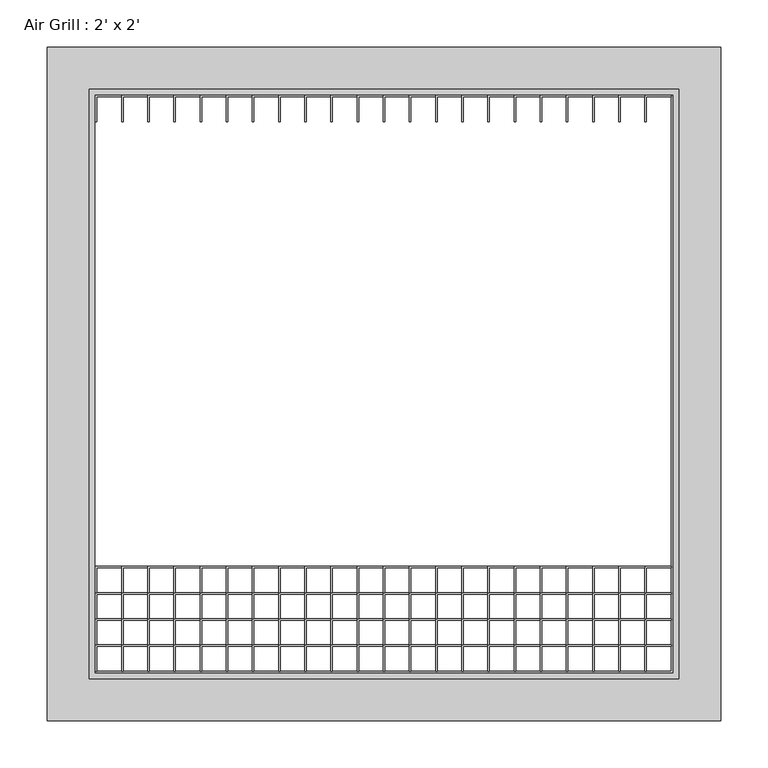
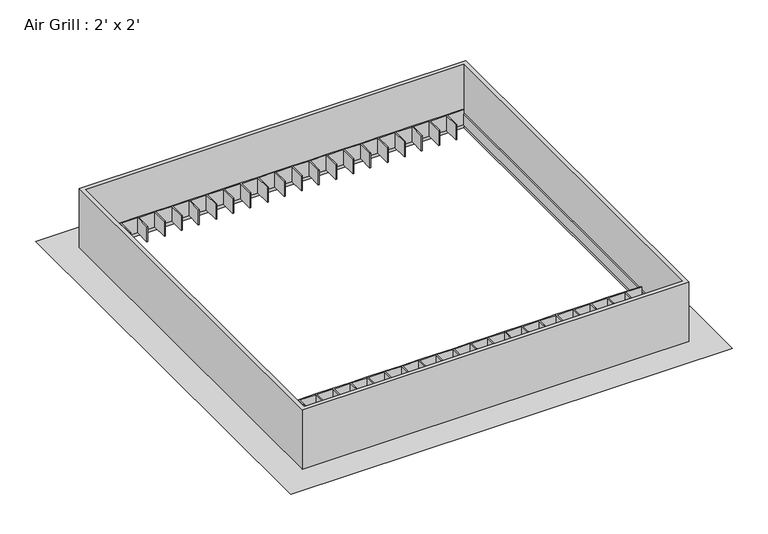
"""IFC4 building model written with IfcOpenShell, lengths in millimetres: proxy geometry, Air Grill : 2' x 2'."""

from ifc_helpers import new_model, si_unit, frame, origin, place, context, project, spatial, polyline, outline, extrude, faceted_brep, source, transform, mapped, element, save


def air_grill_2_x_2_c6a46b44(model_context):
    return source(origin(), model_context, "Body", "SolidModel", [
        extrude(outline(polyline([(247.9386364, -192.6647727), (275.5755682, -192.6647727), (275.5755682, -194.2522727), (249.5261364, -194.2522727), (249.5261364, -220.3017045), (247.9386364, -220.3017045), (247.9386364, -192.6647727)])), frame((0.0, 0.0, 2438.4), z_axis=(0.0, 0.0, 1.0), x_axis=(1.0, 0.0, 0.0)), (0.0, 0.0, 1.0), 25.4),
        extrude(outline(polyline([(220.3017045, -192.6647727), (247.9386364, -192.6647727), (247.9386364, -194.2522727), (221.8892045, -194.2522727), (221.8892045, -220.3017045), (220.3017045, -220.3017045), (220.3017045, -192.6647727)])), frame((0.0, 0.0, 2438.4), z_axis=(0.0, 0.0, 1.0), x_axis=(1.0, 0.0, 0.0)), (0.0, 0.0, 1.0), 25.4),
        extrude(outline(polyline([(192.6647727, -192.6647727), (220.3017045, -192.6647727), (220.3017045, -194.2522727), (194.2522727, -194.2522727), (194.2522727, -220.3017045), (192.6647727, -220.3017045), (192.6647727, -192.6647727)])), frame((0.0, 0.0, 2438.4), z_axis=(0.0, 0.0, 1.0), x_axis=(1.0, 0.0, 0.0)), (0.0, 0.0, 1.0), 25.4),
        extrude(outline(polyline([(165.0278409, -192.6647727), (192.6647727, -192.6647727), (192.6647727, -194.2522727), (166.6153409, -194.2522727), (166.6153409, -220.3017045), (165.0278409, -220.3017045), (165.0278409, -192.6647727)])), frame((0.0, 0.0, 2438.4), z_axis=(0.0, 0.0, 1.0), x_axis=(1.0, 0.0, 0.0)), (0.0, 0.0, 1.0), 25.4),
        extrude(outline(polyline([(137.3909091, -192.6647727), (165.0278409, -192.6647727), (165.0278409, -194.2522727), (138.9784091, -194.2522727), (138.9784091, -220.3017045), (137.3909091, -220.3017045), (137.3909091, -192.6647727)])), frame((0.0, 0.0, 2438.4), z_axis=(0.0, 0.0, 1.0), x_axis=(1.0, 0.0, 0.0)), (0.0, 0.0, 1.0), 25.4),
        extrude(outline(polyline([(109.7539773, -192.6647727), (137.3909091, -192.6647727), (137.3909091, -194.2522727), (111.3414773, -194.2522727), (111.3414773, -220.3017045), (109.7539773, -220.3017045), (109.7539773, -192.6647727)])), frame((0.0, 0.0, 2438.4), z_axis=(0.0, 0.0, 1.0), x_axis=(1.0, 0.0, 0.0)), (0.0, 0.0, 1.0), 25.4),
        extrude(outline(polyline([(82.1170455, -192.6647727), (109.7539773, -192.6647727), (109.7539773, -194.2522727), (83.7045455, -194.2522727), (83.7045455, -220.3017045), (82.1170455, -220.3017045), (82.1170455, -192.6647727)])), frame((0.0, 0.0, 2438.4), z_axis=(0.0, 0.0, 1.0), x_axis=(1.0, 0.0, 0.0)), (0.0, 0.0, 1.0), 25.4),
        extrude(outline(polyline([(54.4801136, -192.6647727), (82.1170455, -192.6647727), (82.1170455, -194.2522727), (56.0676136, -194.2522727), (56.0676136, -220.3017045), (54.4801136, -220.3017045), (54.4801136, -192.6647727)])), frame((0.0, 0.0, 2438.4), z_axis=(0.0, 0.0, 1.0), x_axis=(1.0, 0.0, 0.0)), (0.0, 0.0, 1.0), 25.4),
        extrude(outline(polyline([(26.8431818, -192.6647727), (54.4801136, -192.6647727), (54.4801136, -194.2522727), (28.4306818, -194.2522727), (28.4306818, -220.3017045), (26.8431818, -220.3017045), (26.8431818, -192.6647727)])), frame((0.0, 0.0, 2438.4), z_axis=(0.0, 0.0, 1.0), x_axis=(1.0, 0.0, 0.0)), (0.0, 0.0, 1.0), 25.4),
        extrude(outline(polyline([(-0.79375, -192.6647727), (26.8431818, -192.6647727), (26.8431818, -194.2522727), (0.79375, -194.2522727), (0.79375, -220.3017045), (-0.79375, -220.3017045), (-0.79375, -192.6647727)])), frame((0.0, 0.0, 2438.4), z_axis=(0.0, 0.0, 1.0), x_axis=(1.0, 0.0, 0.0)), (0.0, 0.0, 1.0), 25.4),
        extrude(outline(polyline([(-28.4306818, -192.6647727), (-0.79375, -192.6647727), (-0.79375, -194.2522727), (-26.8431818, -194.2522727), (-26.8431818, -220.3017045), (-28.4306818, -220.3017045), (-28.4306818, -192.6647727)])), frame((0.0, 0.0, 2438.4), z_axis=(0.0, 0.0, 1.0), x_axis=(1.0, 0.0, 0.0)), (0.0, 0.0, 1.0), 25.4),
        extrude(outline(polyline([(-56.0676136, -192.6647727), (-28.4306818, -192.6647727), (-28.4306818, -194.2522727), (-54.4801136, -194.2522727), (-54.4801136, -220.3017045), (-56.0676136, -220.3017045), (-56.0676136, -192.6647727)])), frame((0.0, 0.0, 2438.4), z_axis=(0.0, 0.0, 1.0), x_axis=(1.0, 0.0, 0.0)), (0.0, 0.0, 1.0), 25.4),
        extrude(outline(polyline([(-83.7045455, -192.6647727), (-56.0676136, -192.6647727), (-56.0676136, -194.2522727), (-82.1170455, -194.2522727), (-82.1170455, -220.3017045), (-83.7045455, -220.3017045), (-83.7045455, -192.6647727)])), frame((0.0, 0.0, 2438.4), z_axis=(0.0, 0.0, 1.0), x_axis=(1.0, 0.0, 0.0)), (0.0, 0.0, 1.0), 25.4),
        extrude(outline(polyline([(-111.3414773, -192.6647727), (-83.7045455, -192.6647727), (-83.7045455, -194.2522727), (-109.7539773, -194.2522727), (-109.7539773, -220.3017045), (-111.3414773, -220.3017045), (-111.3414773, -192.6647727)])), frame((0.0, 0.0, 2438.4), z_axis=(0.0, 0.0, 1.0), x_axis=(1.0, 0.0, 0.0)), (0.0, 0.0, 1.0), 25.4),
        extrude(outline(polyline([(-138.9784091, -192.6647727), (-111.3414773, -192.6647727), (-111.3414773, -194.2522727), (-137.3909091, -194.2522727), (-137.3909091, -220.3017045), (-138.9784091, -220.3017045), (-138.9784091, -192.6647727)])), frame((0.0, 0.0, 2438.4), z_axis=(0.0, 0.0, 1.0), x_axis=(1.0, 0.0, 0.0)), (0.0, 0.0, 1.0), 25.4),
        extrude(outline(polyline([(-166.6153409, -192.6647727), (-138.9784091, -192.6647727), (-138.9784091, -194.2522727), (-165.0278409, -194.2522727), (-165.0278409, -220.3017045), (-166.6153409, -220.3017045), (-166.6153409, -192.6647727)])), frame((0.0, 0.0, 2438.4), z_axis=(0.0, 0.0, 1.0), x_axis=(1.0, 0.0, 0.0)), (0.0, 0.0, 1.0), 25.4),
        extrude(outline(polyline([(-194.2522727, -192.6647727), (-166.6153409, -192.6647727), (-166.6153409, -194.2522727), (-192.6647727, -194.2522727), (-192.6647727, -220.3017045), (-194.2522727, -220.3017045), (-194.2522727, -192.6647727)])), frame((0.0, 0.0, 2438.4), z_axis=(0.0, 0.0, 1.0), x_axis=(1.0, 0.0, 0.0)), (0.0, 0.0, 1.0), 25.4),
        extrude(outline(polyline([(-221.8892045, -192.6647727), (-194.2522727, -192.6647727), (-194.2522727, -194.2522727), (-220.3017045, -194.2522727), (-220.3017045, -220.3017045), (-221.8892045, -220.3017045), (-221.8892045, -192.6647727)])), frame((0.0, 0.0, 2438.4), z_axis=(0.0, 0.0, 1.0), x_axis=(1.0, 0.0, 0.0)), (0.0, 0.0, 1.0), 25.4),
        extrude(outline(polyline([(-249.5261364, -192.6647727), (-221.8892045, -192.6647727), (-221.8892045, -194.2522727), (-247.9386364, -194.2522727), (-247.9386364, -220.3017045), (-249.5261364, -220.3017045), (-249.5261364, -192.6647727)])), frame((0.0, 0.0, 2438.4), z_axis=(0.0, 0.0, 1.0), x_axis=(1.0, 0.0, 0.0)), (0.0, 0.0, 1.0), 25.4),
        extrude(outline(polyline([(-277.1630682, -192.6647727), (-249.5261364, -192.6647727), (-249.5261364, -194.2522727), (-275.5755682, -194.2522727), (-275.5755682, -220.3017045), (-277.1630682, -220.3017045), (-277.1630682, -192.6647727)])), frame((0.0, 0.0, 2438.4), z_axis=(0.0, 0.0, 1.0), x_axis=(1.0, 0.0, 0.0)), (0.0, 0.0, 1.0), 25.4),
        extrude(outline(polyline([(275.5755682, -192.6647727), (303.2125, -192.6647727), (303.2125, -194.2522727), (277.1630682, -194.2522727), (277.1630682, -220.3017045), (275.5755682, -220.3017045), (275.5755682, -192.6647727)])), frame((0.0, 0.0, 2438.4), z_axis=(0.0, 0.0, 1.0), x_axis=(1.0, 0.0, 0.0)), (0.0, 0.0, 1.0), 25.4),
        extrude(outline(polyline([(-304.8, -192.6647727), (-277.1630682, -192.6647727), (-277.1630682, -194.2522727), (-303.2125, -194.2522727), (-303.2125, -220.3017045), (-304.8, -220.3017045), (-304.8, -192.6647727)])), frame((0.0, 0.0, 2438.4), z_axis=(0.0, 0.0, 1.0), x_axis=(1.0, 0.0, 0.0)), (0.0, 0.0, 1.0), 25.4),
        extrude(outline(polyline([(247.9386364, -220.3017045), (275.5755682, -220.3017045), (275.5755682, -221.8892045), (249.5261364, -221.8892045), (249.5261364, -247.9386364), (247.9386364, -247.9386364), (247.9386364, -220.3017045)])), frame((0.0, 0.0, 2438.4), z_axis=(0.0, 0.0, 1.0), x_axis=(1.0, 0.0, 0.0)), (0.0, 0.0, 1.0), 25.4),
        extrude(outline(polyline([(220.3017045, -220.3017045), (247.9386364, -220.3017045), (247.9386364, -221.8892045), (221.8892045, -221.8892045), (221.8892045, -247.9386364), (220.3017045, -247.9386364), (220.3017045, -220.3017045)])), frame((0.0, 0.0, 2438.4), z_axis=(0.0, 0.0, 1.0), x_axis=(1.0, 0.0, 0.0)), (0.0, 0.0, 1.0), 25.4),
        extrude(outline(polyline([(192.6647727, -220.3017045), (220.3017045, -220.3017045), (220.3017045, -221.8892045), (194.2522727, -221.8892045), (194.2522727, -247.9386364), (192.6647727, -247.9386364), (192.6647727, -220.3017045)])), frame((0.0, 0.0, 2438.4), z_axis=(0.0, 0.0, 1.0), x_axis=(1.0, 0.0, 0.0)), (0.0, 0.0, 1.0), 25.4),
        extrude(outline(polyline([(165.0278409, -220.3017045), (192.6647727, -220.3017045), (192.6647727, -221.8892045), (166.6153409, -221.8892045), (166.6153409, -247.9386364), (165.0278409, -247.9386364), (165.0278409, -220.3017045)])), frame((0.0, 0.0, 2438.4), z_axis=(0.0, 0.0, 1.0), x_axis=(1.0, 0.0, 0.0)), (0.0, 0.0, 1.0), 25.4),
        extrude(outline(polyline([(137.3909091, -220.3017045), (165.0278409, -220.3017045), (165.0278409, -221.8892045), (138.9784091, -221.8892045), (138.9784091, -247.9386364), (137.3909091, -247.9386364), (137.3909091, -220.3017045)])), frame((0.0, 0.0, 2438.4), z_axis=(0.0, 0.0, 1.0), x_axis=(1.0, 0.0, 0.0)), (0.0, 0.0, 1.0), 25.4),
        extrude(outline(polyline([(109.7539773, -220.3017045), (137.3909091, -220.3017045), (137.3909091, -221.8892045), (111.3414773, -221.8892045), (111.3414773, -247.9386364), (109.7539773, -247.9386364), (109.7539773, -220.3017045)])), frame((0.0, 0.0, 2438.4), z_axis=(0.0, 0.0, 1.0), x_axis=(1.0, 0.0, 0.0)), (0.0, 0.0, 1.0), 25.4),
        extrude(outline(polyline([(82.1170455, -220.3017045), (109.7539773, -220.3017045), (109.7539773, -221.8892045), (83.7045455, -221.8892045), (83.7045455, -247.9386364), (82.1170455, -247.9386364), (82.1170455, -220.3017045)])), frame((0.0, 0.0, 2438.4), z_axis=(0.0, 0.0, 1.0), x_axis=(1.0, 0.0, 0.0)), (0.0, 0.0, 1.0), 25.4),
        extrude(outline(polyline([(54.4801136, -220.3017045), (82.1170455, -220.3017045), (82.1170455, -221.8892045), (56.0676136, -221.8892045), (56.0676136, -247.9386364), (54.4801136, -247.9386364), (54.4801136, -220.3017045)])), frame((0.0, 0.0, 2438.4), z_axis=(0.0, 0.0, 1.0), x_axis=(1.0, 0.0, 0.0)), (0.0, 0.0, 1.0), 25.4),
        extrude(outline(polyline([(26.8431818, -220.3017045), (54.4801136, -220.3017045), (54.4801136, -221.8892045), (28.4306818, -221.8892045), (28.4306818, -247.9386364), (26.8431818, -247.9386364), (26.8431818, -220.3017045)])), frame((0.0, 0.0, 2438.4), z_axis=(0.0, 0.0, 1.0), x_axis=(1.0, 0.0, 0.0)), (0.0, 0.0, 1.0), 25.4),
        extrude(outline(polyline([(-0.79375, -220.3017045), (26.8431818, -220.3017045), (26.8431818, -221.8892045), (0.79375, -221.8892045), (0.79375, -247.9386364), (-0.79375, -247.9386364), (-0.79375, -220.3017045)])), frame((0.0, 0.0, 2438.4), z_axis=(0.0, 0.0, 1.0), x_axis=(1.0, 0.0, 0.0)), (0.0, 0.0, 1.0), 25.4),
        extrude(outline(polyline([(-28.4306818, -220.3017045), (-0.79375, -220.3017045), (-0.79375, -221.8892045), (-26.8431818, -221.8892045), (-26.8431818, -247.9386364), (-28.4306818, -247.9386364), (-28.4306818, -220.3017045)])), frame((0.0, 0.0, 2438.4), z_axis=(0.0, 0.0, 1.0), x_axis=(1.0, 0.0, 0.0)), (0.0, 0.0, 1.0), 25.4),
        extrude(outline(polyline([(-56.0676136, -220.3017045), (-28.4306818, -220.3017045), (-28.4306818, -221.8892045), (-54.4801136, -221.8892045), (-54.4801136, -247.9386364), (-56.0676136, -247.9386364), (-56.0676136, -220.3017045)])), frame((0.0, 0.0, 2438.4), z_axis=(0.0, 0.0, 1.0), x_axis=(1.0, 0.0, 0.0)), (0.0, 0.0, 1.0), 25.4),
        extrude(outline(polyline([(-83.7045455, -220.3017045), (-56.0676136, -220.3017045), (-56.0676136, -221.8892045), (-82.1170455, -221.8892045), (-82.1170455, -247.9386364), (-83.7045455, -247.9386364), (-83.7045455, -220.3017045)])), frame((0.0, 0.0, 2438.4), z_axis=(0.0, 0.0, 1.0), x_axis=(1.0, 0.0, 0.0)), (0.0, 0.0, 1.0), 25.4),
        extrude(outline(polyline([(-111.3414773, -220.3017045), (-83.7045455, -220.3017045), (-83.7045455, -221.8892045), (-109.7539773, -221.8892045), (-109.7539773, -247.9386364), (-111.3414773, -247.9386364), (-111.3414773, -220.3017045)])), frame((0.0, 0.0, 2438.4), z_axis=(0.0, 0.0, 1.0), x_axis=(1.0, 0.0, 0.0)), (0.0, 0.0, 1.0), 25.4),
        extrude(outline(polyline([(-138.9784091, -220.3017045), (-111.3414773, -220.3017045), (-111.3414773, -221.8892045), (-137.3909091, -221.8892045), (-137.3909091, -247.9386364), (-138.9784091, -247.9386364), (-138.9784091, -220.3017045)])), frame((0.0, 0.0, 2438.4), z_axis=(0.0, 0.0, 1.0), x_axis=(1.0, 0.0, 0.0)), (0.0, 0.0, 1.0), 25.4),
        extrude(outline(polyline([(-166.6153409, -220.3017045), (-138.9784091, -220.3017045), (-138.9784091, -221.8892045), (-165.0278409, -221.8892045), (-165.0278409, -247.9386364), (-166.6153409, -247.9386364), (-166.6153409, -220.3017045)])), frame((0.0, 0.0, 2438.4), z_axis=(0.0, 0.0, 1.0), x_axis=(1.0, 0.0, 0.0)), (0.0, 0.0, 1.0), 25.4),
        extrude(outline(polyline([(-194.2522727, -220.3017045), (-166.6153409, -220.3017045), (-166.6153409, -221.8892045), (-192.6647727, -221.8892045), (-192.6647727, -247.9386364), (-194.2522727, -247.9386364), (-194.2522727, -220.3017045)])), frame((0.0, 0.0, 2438.4), z_axis=(0.0, 0.0, 1.0), x_axis=(1.0, 0.0, 0.0)), (0.0, 0.0, 1.0), 25.4),
        extrude(outline(polyline([(-221.8892045, -220.3017045), (-194.2522727, -220.3017045), (-194.2522727, -221.8892045), (-220.3017045, -221.8892045), (-220.3017045, -247.9386364), (-221.8892045, -247.9386364), (-221.8892045, -220.3017045)])), frame((0.0, 0.0, 2438.4), z_axis=(0.0, 0.0, 1.0), x_axis=(1.0, 0.0, 0.0)), (0.0, 0.0, 1.0), 25.4),
        extrude(outline(polyline([(-249.5261364, -220.3017045), (-221.8892045, -220.3017045), (-221.8892045, -221.8892045), (-247.9386364, -221.8892045), (-247.9386364, -247.9386364), (-249.5261364, -247.9386364), (-249.5261364, -220.3017045)])), frame((0.0, 0.0, 2438.4), z_axis=(0.0, 0.0, 1.0), x_axis=(1.0, 0.0, 0.0)), (0.0, 0.0, 1.0), 25.4),
        extrude(outline(polyline([(-277.1630682, -220.3017045), (-249.5261364, -220.3017045), (-249.5261364, -221.8892045), (-275.5755682, -221.8892045), (-275.5755682, -247.9386364), (-277.1630682, -247.9386364), (-277.1630682, -220.3017045)])), frame((0.0, 0.0, 2438.4), z_axis=(0.0, 0.0, 1.0), x_axis=(1.0, 0.0, 0.0)), (0.0, 0.0, 1.0), 25.4),
        extrude(outline(polyline([(275.5755682, -220.3017045), (303.2125, -220.3017045), (303.2125, -221.8892045), (277.1630682, -221.8892045), (277.1630682, -247.9386364), (275.5755682, -247.9386364), (275.5755682, -220.3017045)])), frame((0.0, 0.0, 2438.4), z_axis=(0.0, 0.0, 1.0), x_axis=(1.0, 0.0, 0.0)), (0.0, 0.0, 1.0), 25.4),
        extrude(outline(polyline([(-304.8, -220.3017045), (-277.1630682, -220.3017045), (-277.1630682, -221.8892045), (-303.2125, -221.8892045), (-303.2125, -247.9386364), (-304.8, -247.9386364), (-304.8, -220.3017045)])), frame((0.0, 0.0, 2438.4), z_axis=(0.0, 0.0, 1.0), x_axis=(1.0, 0.0, 0.0)), (0.0, 0.0, 1.0), 25.4),
        extrude(outline(polyline([(247.9386364, -247.9386364), (275.5755682, -247.9386364), (275.5755682, -249.5261364), (249.5261364, -249.5261364), (249.5261364, -275.5755682), (247.9386364, -275.5755682), (247.9386364, -247.9386364)])), frame((0.0, 0.0, 2438.4), z_axis=(0.0, 0.0, 1.0), x_axis=(1.0, 0.0, 0.0)), (0.0, 0.0, 1.0), 25.4),
        extrude(outline(polyline([(220.3017045, -247.9386364), (247.9386364, -247.9386364), (247.9386364, -249.5261364), (221.8892045, -249.5261364), (221.8892045, -275.5755682), (220.3017045, -275.5755682), (220.3017045, -247.9386364)])), frame((0.0, 0.0, 2438.4), z_axis=(0.0, 0.0, 1.0), x_axis=(1.0, 0.0, 0.0)), (0.0, 0.0, 1.0), 25.4),
        extrude(outline(polyline([(192.6647727, -247.9386364), (220.3017045, -247.9386364), (220.3017045, -249.5261364), (194.2522727, -249.5261364), (194.2522727, -275.5755682), (192.6647727, -275.5755682), (192.6647727, -247.9386364)])), frame((0.0, 0.0, 2438.4), z_axis=(0.0, 0.0, 1.0), x_axis=(1.0, 0.0, 0.0)), (0.0, 0.0, 1.0), 25.4),
        extrude(outline(polyline([(165.0278409, -247.9386364), (192.6647727, -247.9386364), (192.6647727, -249.5261364), (166.6153409, -249.5261364), (166.6153409, -275.5755682), (165.0278409, -275.5755682), (165.0278409, -247.9386364)])), frame((0.0, 0.0, 2438.4), z_axis=(0.0, 0.0, 1.0), x_axis=(1.0, 0.0, 0.0)), (0.0, 0.0, 1.0), 25.4),
        extrude(outline(polyline([(137.3909091, -247.9386364), (165.0278409, -247.9386364), (165.0278409, -249.5261364), (138.9784091, -249.5261364), (138.9784091, -275.5755682), (137.3909091, -275.5755682), (137.3909091, -247.9386364)])), frame((0.0, 0.0, 2438.4), z_axis=(0.0, 0.0, 1.0), x_axis=(1.0, 0.0, 0.0)), (0.0, 0.0, 1.0), 25.4),
        extrude(outline(polyline([(109.7539773, -247.9386364), (137.3909091, -247.9386364), (137.3909091, -249.5261364), (111.3414773, -249.5261364), (111.3414773, -275.5755682), (109.7539773, -275.5755682), (109.7539773, -247.9386364)])), frame((0.0, 0.0, 2438.4), z_axis=(0.0, 0.0, 1.0), x_axis=(1.0, 0.0, 0.0)), (0.0, 0.0, 1.0), 25.4),
        extrude(outline(polyline([(82.1170455, -247.9386364), (109.7539773, -247.9386364), (109.7539773, -249.5261364), (83.7045455, -249.5261364), (83.7045455, -275.5755682), (82.1170455, -275.5755682), (82.1170455, -247.9386364)])), frame((0.0, 0.0, 2438.4), z_axis=(0.0, 0.0, 1.0), x_axis=(1.0, 0.0, 0.0)), (0.0, 0.0, 1.0), 25.4),
        extrude(outline(polyline([(54.4801136, -247.9386364), (82.1170455, -247.9386364), (82.1170455, -249.5261364), (56.0676136, -249.5261364), (56.0676136, -275.5755682), (54.4801136, -275.5755682), (54.4801136, -247.9386364)])), frame((0.0, 0.0, 2438.4), z_axis=(0.0, 0.0, 1.0), x_axis=(1.0, 0.0, 0.0)), (0.0, 0.0, 1.0), 25.4),
        extrude(outline(polyline([(26.8431818, -247.9386364), (54.4801136, -247.9386364), (54.4801136, -249.5261364), (28.4306818, -249.5261364), (28.4306818, -275.5755682), (26.8431818, -275.5755682), (26.8431818, -247.9386364)])), frame((0.0, 0.0, 2438.4), z_axis=(0.0, 0.0, 1.0), x_axis=(1.0, 0.0, 0.0)), (0.0, 0.0, 1.0), 25.4),
        extrude(outline(polyline([(-0.79375, -247.9386364), (26.8431818, -247.9386364), (26.8431818, -249.5261364), (0.79375, -249.5261364), (0.79375, -275.5755682), (-0.79375, -275.5755682), (-0.79375, -247.9386364)])), frame((0.0, 0.0, 2438.4), z_axis=(0.0, 0.0, 1.0), x_axis=(1.0, 0.0, 0.0)), (0.0, 0.0, 1.0), 25.4),
        extrude(outline(polyline([(-28.4306818, -247.9386364), (-0.79375, -247.9386364), (-0.79375, -249.5261364), (-26.8431818, -249.5261364), (-26.8431818, -275.5755682), (-28.4306818, -275.5755682), (-28.4306818, -247.9386364)])), frame((0.0, 0.0, 2438.4), z_axis=(0.0, 0.0, 1.0), x_axis=(1.0, 0.0, 0.0)), (0.0, 0.0, 1.0), 25.4),
        extrude(outline(polyline([(-56.0676136, -247.9386364), (-28.4306818, -247.9386364), (-28.4306818, -249.5261364), (-54.4801136, -249.5261364), (-54.4801136, -275.5755682), (-56.0676136, -275.5755682), (-56.0676136, -247.9386364)])), frame((0.0, 0.0, 2438.4), z_axis=(0.0, 0.0, 1.0), x_axis=(1.0, 0.0, 0.0)), (0.0, 0.0, 1.0), 25.4),
        extrude(outline(polyline([(-83.7045455, -247.9386364), (-56.0676136, -247.9386364), (-56.0676136, -249.5261364), (-82.1170455, -249.5261364), (-82.1170455, -275.5755682), (-83.7045455, -275.5755682), (-83.7045455, -247.9386364)])), frame((0.0, 0.0, 2438.4), z_axis=(0.0, 0.0, 1.0), x_axis=(1.0, 0.0, 0.0)), (0.0, 0.0, 1.0), 25.4),
        extrude(outline(polyline([(-111.3414773, -247.9386364), (-83.7045455, -247.9386364), (-83.7045455, -249.5261364), (-109.7539773, -249.5261364), (-109.7539773, -275.5755682), (-111.3414773, -275.5755682), (-111.3414773, -247.9386364)])), frame((0.0, 0.0, 2438.4), z_axis=(0.0, 0.0, 1.0), x_axis=(1.0, 0.0, 0.0)), (0.0, 0.0, 1.0), 25.4),
        extrude(outline(polyline([(-138.9784091, -247.9386364), (-111.3414773, -247.9386364), (-111.3414773, -249.5261364), (-137.3909091, -249.5261364), (-137.3909091, -275.5755682), (-138.9784091, -275.5755682), (-138.9784091, -247.9386364)])), frame((0.0, 0.0, 2438.4), z_axis=(0.0, 0.0, 1.0), x_axis=(1.0, 0.0, 0.0)), (0.0, 0.0, 1.0), 25.4),
        extrude(outline(polyline([(-166.6153409, -247.9386364), (-138.9784091, -247.9386364), (-138.9784091, -249.5261364), (-165.0278409, -249.5261364), (-165.0278409, -275.5755682), (-166.6153409, -275.5755682), (-166.6153409, -247.9386364)])), frame((0.0, 0.0, 2438.4), z_axis=(0.0, 0.0, 1.0), x_axis=(1.0, 0.0, 0.0)), (0.0, 0.0, 1.0), 25.4),
        extrude(outline(polyline([(-194.2522727, -247.9386364), (-166.6153409, -247.9386364), (-166.6153409, -249.5261364), (-192.6647727, -249.5261364), (-192.6647727, -275.5755682), (-194.2522727, -275.5755682), (-194.2522727, -247.9386364)])), frame((0.0, 0.0, 2438.4), z_axis=(0.0, 0.0, 1.0), x_axis=(1.0, 0.0, 0.0)), (0.0, 0.0, 1.0), 25.4),
        extrude(outline(polyline([(-221.8892045, -247.9386364), (-194.2522727, -247.9386364), (-194.2522727, -249.5261364), (-220.3017045, -249.5261364), (-220.3017045, -275.5755682), (-221.8892045, -275.5755682), (-221.8892045, -247.9386364)])), frame((0.0, 0.0, 2438.4), z_axis=(0.0, 0.0, 1.0), x_axis=(1.0, 0.0, 0.0)), (0.0, 0.0, 1.0), 25.4),
        extrude(outline(polyline([(-249.5261364, -247.9386364), (-221.8892045, -247.9386364), (-221.8892045, -249.5261364), (-247.9386364, -249.5261364), (-247.9386364, -275.5755682), (-249.5261364, -275.5755682), (-249.5261364, -247.9386364)])), frame((0.0, 0.0, 2438.4), z_axis=(0.0, 0.0, 1.0), x_axis=(1.0, 0.0, 0.0)), (0.0, 0.0, 1.0), 25.4),
        extrude(outline(polyline([(-277.1630682, -247.9386364), (-249.5261364, -247.9386364), (-249.5261364, -249.5261364), (-275.5755682, -249.5261364), (-275.5755682, -275.5755682), (-277.1630682, -275.5755682), (-277.1630682, -247.9386364)])), frame((0.0, 0.0, 2438.4), z_axis=(0.0, 0.0, 1.0), x_axis=(1.0, 0.0, 0.0)), (0.0, 0.0, 1.0), 25.4),
        extrude(outline(polyline([(275.5755682, -247.9386364), (303.2125, -247.9386364), (303.2125, -249.5261364), (277.1630682, -249.5261364), (277.1630682, -275.5755682), (275.5755682, -275.5755682), (275.5755682, -247.9386364)])), frame((0.0, 0.0, 2438.4), z_axis=(0.0, 0.0, 1.0), x_axis=(1.0, 0.0, 0.0)), (0.0, 0.0, 1.0), 25.4),
        extrude(outline(polyline([(-304.8, -247.9386364), (-277.1630682, -247.9386364), (-277.1630682, -249.5261364), (-303.2125, -249.5261364), (-303.2125, -275.5755682), (-304.8, -275.5755682), (-304.8, -247.9386364)])), frame((0.0, 0.0, 2438.4), z_axis=(0.0, 0.0, 1.0), x_axis=(1.0, 0.0, 0.0)), (0.0, 0.0, 1.0), 25.4),
        extrude(outline(polyline([(247.9386364, 304.8), (275.5755682, 304.8), (275.5755682, 303.2125), (249.5261364, 303.2125), (249.5261364, 277.1630682), (247.9386364, 277.1630682), (247.9386364, 304.8)])), frame((0.0, 0.0, 2438.4), z_axis=(0.0, 0.0, 1.0), x_axis=(1.0, 0.0, 0.0)), (0.0, 0.0, 1.0), 25.4),
        extrude(outline(polyline([(220.3017045, 304.8), (247.9386364, 304.8), (247.9386364, 303.2125), (221.8892045, 303.2125), (221.8892045, 277.1630682), (220.3017045, 277.1630682), (220.3017045, 304.8)])), frame((0.0, 0.0, 2438.4), z_axis=(0.0, 0.0, 1.0), x_axis=(1.0, 0.0, 0.0)), (0.0, 0.0, 1.0), 25.4),
        extrude(outline(polyline([(192.6647727, 304.8), (220.3017045, 304.8), (220.3017045, 303.2125), (194.2522727, 303.2125), (194.2522727, 277.1630682), (192.6647727, 277.1630682), (192.6647727, 304.8)])), frame((0.0, 0.0, 2438.4), z_axis=(0.0, 0.0, 1.0), x_axis=(1.0, 0.0, 0.0)), (0.0, 0.0, 1.0), 25.4),
        extrude(outline(polyline([(165.0278409, 304.8), (192.6647727, 304.8), (192.6647727, 303.2125), (166.6153409, 303.2125), (166.6153409, 277.1630682), (165.0278409, 277.1630682), (165.0278409, 304.8)])), frame((0.0, 0.0, 2438.4), z_axis=(0.0, 0.0, 1.0), x_axis=(1.0, 0.0, 0.0)), (0.0, 0.0, 1.0), 25.4),
        extrude(outline(polyline([(137.3909091, 304.8), (165.0278409, 304.8), (165.0278409, 303.2125), (138.9784091, 303.2125), (138.9784091, 277.1630682), (137.3909091, 277.1630682), (137.3909091, 304.8)])), frame((0.0, 0.0, 2438.4), z_axis=(0.0, 0.0, 1.0), x_axis=(1.0, 0.0, 0.0)), (0.0, 0.0, 1.0), 25.4),
        extrude(outline(polyline([(109.7539773, 304.8), (137.3909091, 304.8), (137.3909091, 303.2125), (111.3414773, 303.2125), (111.3414773, 277.1630682), (109.7539773, 277.1630682), (109.7539773, 304.8)])), frame((0.0, 0.0, 2438.4), z_axis=(0.0, 0.0, 1.0), x_axis=(1.0, 0.0, 0.0)), (0.0, 0.0, 1.0), 25.4),
        extrude(outline(polyline([(82.1170455, 304.8), (109.7539773, 304.8), (109.7539773, 303.2125), (83.7045455, 303.2125), (83.7045455, 277.1630682), (82.1170455, 277.1630682), (82.1170455, 304.8)])), frame((0.0, 0.0, 2438.4), z_axis=(0.0, 0.0, 1.0), x_axis=(1.0, 0.0, 0.0)), (0.0, 0.0, 1.0), 25.4),
        extrude(outline(polyline([(54.4801136, 304.8), (82.1170455, 304.8), (82.1170455, 303.2125), (56.0676136, 303.2125), (56.0676136, 277.1630682), (54.4801136, 277.1630682), (54.4801136, 304.8)])), frame((0.0, 0.0, 2438.4), z_axis=(0.0, 0.0, 1.0), x_axis=(1.0, 0.0, 0.0)), (0.0, 0.0, 1.0), 25.4),
        extrude(outline(polyline([(26.8431818, 304.8), (54.4801136, 304.8), (54.4801136, 303.2125), (28.4306818, 303.2125), (28.4306818, 277.1630682), (26.8431818, 277.1630682), (26.8431818, 304.8)])), frame((0.0, 0.0, 2438.4), z_axis=(0.0, 0.0, 1.0), x_axis=(1.0, 0.0, 0.0)), (0.0, 0.0, 1.0), 25.4),
        extrude(outline(polyline([(-0.79375, 304.8), (26.8431818, 304.8), (26.8431818, 303.2125), (0.79375, 303.2125), (0.79375, 277.1630682), (-0.79375, 277.1630682), (-0.79375, 304.8)])), frame((0.0, 0.0, 2438.4), z_axis=(0.0, 0.0, 1.0), x_axis=(1.0, 0.0, 0.0)), (0.0, 0.0, 1.0), 25.4),
        extrude(outline(polyline([(-28.4306818, 304.8), (-0.79375, 304.8), (-0.79375, 303.2125), (-26.8431818, 303.2125), (-26.8431818, 277.1630682), (-28.4306818, 277.1630682), (-28.4306818, 304.8)])), frame((0.0, 0.0, 2438.4), z_axis=(0.0, 0.0, 1.0), x_axis=(1.0, 0.0, 0.0)), (0.0, 0.0, 1.0), 25.4),
        extrude(outline(polyline([(-56.0676136, 304.8), (-28.4306818, 304.8), (-28.4306818, 303.2125), (-54.4801136, 303.2125), (-54.4801136, 277.1630682), (-56.0676136, 277.1630682), (-56.0676136, 304.8)])), frame((0.0, 0.0, 2438.4), z_axis=(0.0, 0.0, 1.0), x_axis=(1.0, 0.0, 0.0)), (0.0, 0.0, 1.0), 25.4),
        extrude(outline(polyline([(-83.7045455, 304.8), (-56.0676136, 304.8), (-56.0676136, 303.2125), (-82.1170455, 303.2125), (-82.1170455, 277.1630682), (-83.7045455, 277.1630682), (-83.7045455, 304.8)])), frame((0.0, 0.0, 2438.4), z_axis=(0.0, 0.0, 1.0), x_axis=(1.0, 0.0, 0.0)), (0.0, 0.0, 1.0), 25.4),
        extrude(outline(polyline([(-111.3414773, 304.8), (-83.7045455, 304.8), (-83.7045455, 303.2125), (-109.7539773, 303.2125), (-109.7539773, 277.1630682), (-111.3414773, 277.1630682), (-111.3414773, 304.8)])), frame((0.0, 0.0, 2438.4), z_axis=(0.0, 0.0, 1.0), x_axis=(1.0, 0.0, 0.0)), (0.0, 0.0, 1.0), 25.4),
        extrude(outline(polyline([(-138.9784091, 304.8), (-111.3414773, 304.8), (-111.3414773, 303.2125), (-137.3909091, 303.2125), (-137.3909091, 277.1630682), (-138.9784091, 277.1630682), (-138.9784091, 304.8)])), frame((0.0, 0.0, 2438.4), z_axis=(0.0, 0.0, 1.0), x_axis=(1.0, 0.0, 0.0)), (0.0, 0.0, 1.0), 25.4),
        extrude(outline(polyline([(-166.6153409, 304.8), (-138.9784091, 304.8), (-138.9784091, 303.2125), (-165.0278409, 303.2125), (-165.0278409, 277.1630682), (-166.6153409, 277.1630682), (-166.6153409, 304.8)])), frame((0.0, 0.0, 2438.4), z_axis=(0.0, 0.0, 1.0), x_axis=(1.0, 0.0, 0.0)), (0.0, 0.0, 1.0), 25.4),
        extrude(outline(polyline([(-194.2522727, 304.8), (-166.6153409, 304.8), (-166.6153409, 303.2125), (-192.6647727, 303.2125), (-192.6647727, 277.1630682), (-194.2522727, 277.1630682), (-194.2522727, 304.8)])), frame((0.0, 0.0, 2438.4), z_axis=(0.0, 0.0, 1.0), x_axis=(1.0, 0.0, 0.0)), (0.0, 0.0, 1.0), 25.4),
        extrude(outline(polyline([(-221.8892045, 304.8), (-194.2522727, 304.8), (-194.2522727, 303.2125), (-220.3017045, 303.2125), (-220.3017045, 277.1630682), (-221.8892045, 277.1630682), (-221.8892045, 304.8)])), frame((0.0, 0.0, 2438.4), z_axis=(0.0, 0.0, 1.0), x_axis=(1.0, 0.0, 0.0)), (0.0, 0.0, 1.0), 25.4),
        extrude(outline(polyline([(-249.5261364, 304.8), (-221.8892045, 304.8), (-221.8892045, 303.2125), (-247.9386364, 303.2125), (-247.9386364, 277.1630682), (-249.5261364, 277.1630682), (-249.5261364, 304.8)])), frame((0.0, 0.0, 2438.4), z_axis=(0.0, 0.0, 1.0), x_axis=(1.0, 0.0, 0.0)), (0.0, 0.0, 1.0), 25.4),
        extrude(outline(polyline([(-277.1630682, 304.8), (-249.5261364, 304.8), (-249.5261364, 303.2125), (-275.5755682, 303.2125), (-275.5755682, 277.1630682), (-277.1630682, 277.1630682), (-277.1630682, 304.8)])), frame((0.0, 0.0, 2438.4), z_axis=(0.0, 0.0, 1.0), x_axis=(1.0, 0.0, 0.0)), (0.0, 0.0, 1.0), 25.4),
        extrude(outline(polyline([(275.5755682, 304.8), (303.2125, 304.8), (303.2125, 303.2125), (277.1630682, 303.2125), (277.1630682, 277.1630682), (275.5755682, 277.1630682), (275.5755682, 304.8)])), frame((0.0, 0.0, 2438.4), z_axis=(0.0, 0.0, 1.0), x_axis=(1.0, 0.0, 0.0)), (0.0, 0.0, 1.0), 25.4),
        extrude(outline(polyline([(-304.8, 304.8), (-277.1630682, 304.8), (-277.1630682, 303.2125), (-303.2125, 303.2125), (-303.2125, 277.1630682), (-304.8, 277.1630682), (-304.8, 304.8)])), frame((0.0, 0.0, 2438.4), z_axis=(0.0, 0.0, 1.0), x_axis=(1.0, 0.0, 0.0)), (0.0, 0.0, 1.0), 25.4),
        extrude(outline(polyline([(247.9386364, -275.5755682), (275.5755682, -275.5755682), (275.5755682, -277.1630682), (249.5261364, -277.1630682), (249.5261364, -303.2125), (247.9386364, -303.2125), (247.9386364, -275.5755682)])), frame((0.0, 0.0, 2438.4), z_axis=(0.0, 0.0, 1.0), x_axis=(1.0, 0.0, 0.0)), (0.0, 0.0, 1.0), 25.4),
        extrude(outline(polyline([(220.3017045, -275.5755682), (247.9386364, -275.5755682), (247.9386364, -277.1630682), (221.8892045, -277.1630682), (221.8892045, -303.2125), (220.3017045, -303.2125), (220.3017045, -275.5755682)])), frame((0.0, 0.0, 2438.4), z_axis=(0.0, 0.0, 1.0), x_axis=(1.0, 0.0, 0.0)), (0.0, 0.0, 1.0), 25.4),
        extrude(outline(polyline([(192.6647727, -275.5755682), (220.3017045, -275.5755682), (220.3017045, -277.1630682), (194.2522727, -277.1630682), (194.2522727, -303.2125), (192.6647727, -303.2125), (192.6647727, -275.5755682)])), frame((0.0, 0.0, 2438.4), z_axis=(0.0, 0.0, 1.0), x_axis=(1.0, 0.0, 0.0)), (0.0, 0.0, 1.0), 25.4),
        extrude(outline(polyline([(165.0278409, -275.5755682), (192.6647727, -275.5755682), (192.6647727, -277.1630682), (166.6153409, -277.1630682), (166.6153409, -303.2125), (165.0278409, -303.2125), (165.0278409, -275.5755682)])), frame((0.0, 0.0, 2438.4), z_axis=(0.0, 0.0, 1.0), x_axis=(1.0, 0.0, 0.0)), (0.0, 0.0, 1.0), 25.4),
        extrude(outline(polyline([(137.3909091, -275.5755682), (165.0278409, -275.5755682), (165.0278409, -277.1630682), (138.9784091, -277.1630682), (138.9784091, -303.2125), (137.3909091, -303.2125), (137.3909091, -275.5755682)])), frame((0.0, 0.0, 2438.4), z_axis=(0.0, 0.0, 1.0), x_axis=(1.0, 0.0, 0.0)), (0.0, 0.0, 1.0), 25.4),
        extrude(outline(polyline([(109.7539773, -275.5755682), (137.3909091, -275.5755682), (137.3909091, -277.1630682), (111.3414773, -277.1630682), (111.3414773, -303.2125), (109.7539773, -303.2125), (109.7539773, -275.5755682)])), frame((0.0, 0.0, 2438.4), z_axis=(0.0, 0.0, 1.0), x_axis=(1.0, 0.0, 0.0)), (0.0, 0.0, 1.0), 25.4),
        extrude(outline(polyline([(82.1170455, -275.5755682), (109.7539773, -275.5755682), (109.7539773, -277.1630682), (83.7045455, -277.1630682), (83.7045455, -303.2125), (82.1170455, -303.2125), (82.1170455, -275.5755682)])), frame((0.0, 0.0, 2438.4), z_axis=(0.0, 0.0, 1.0), x_axis=(1.0, 0.0, 0.0)), (0.0, 0.0, 1.0), 25.4),
        extrude(outline(polyline([(54.4801136, -275.5755682), (82.1170455, -275.5755682), (82.1170455, -277.1630682), (56.0676136, -277.1630682), (56.0676136, -303.2125), (54.4801136, -303.2125), (54.4801136, -275.5755682)])), frame((0.0, 0.0, 2438.4), z_axis=(0.0, 0.0, 1.0), x_axis=(1.0, 0.0, 0.0)), (0.0, 0.0, 1.0), 25.4),
        extrude(outline(polyline([(26.8431818, -275.5755682), (54.4801136, -275.5755682), (54.4801136, -277.1630682), (28.4306818, -277.1630682), (28.4306818, -303.2125), (26.8431818, -303.2125), (26.8431818, -275.5755682)])), frame((0.0, 0.0, 2438.4), z_axis=(0.0, 0.0, 1.0), x_axis=(1.0, 0.0, 0.0)), (0.0, 0.0, 1.0), 25.4),
        extrude(outline(polyline([(-0.79375, -275.5755682), (26.8431818, -275.5755682), (26.8431818, -277.1630682), (0.79375, -277.1630682), (0.79375, -303.2125), (-0.79375, -303.2125), (-0.79375, -275.5755682)])), frame((0.0, 0.0, 2438.4), z_axis=(0.0, 0.0, 1.0), x_axis=(1.0, 0.0, 0.0)), (0.0, 0.0, 1.0), 25.4),
        extrude(outline(polyline([(-28.4306818, -275.5755682), (-0.79375, -275.5755682), (-0.79375, -277.1630682), (-26.8431818, -277.1630682), (-26.8431818, -303.2125), (-28.4306818, -303.2125), (-28.4306818, -275.5755682)])), frame((0.0, 0.0, 2438.4), z_axis=(0.0, 0.0, 1.0), x_axis=(1.0, 0.0, 0.0)), (0.0, 0.0, 1.0), 25.4),
        extrude(outline(polyline([(-56.0676136, -275.5755682), (-28.4306818, -275.5755682), (-28.4306818, -277.1630682), (-54.4801136, -277.1630682), (-54.4801136, -303.2125), (-56.0676136, -303.2125), (-56.0676136, -275.5755682)])), frame((0.0, 0.0, 2438.4), z_axis=(0.0, 0.0, 1.0), x_axis=(1.0, 0.0, 0.0)), (0.0, 0.0, 1.0), 25.4),
        extrude(outline(polyline([(-83.7045455, -275.5755682), (-56.0676136, -275.5755682), (-56.0676136, -277.1630682), (-82.1170455, -277.1630682), (-82.1170455, -303.2125), (-83.7045455, -303.2125), (-83.7045455, -275.5755682)])), frame((0.0, 0.0, 2438.4), z_axis=(0.0, 0.0, 1.0), x_axis=(1.0, 0.0, 0.0)), (0.0, 0.0, 1.0), 25.4),
        extrude(outline(polyline([(-111.3414773, -275.5755682), (-83.7045455, -275.5755682), (-83.7045455, -277.1630682), (-109.7539773, -277.1630682), (-109.7539773, -303.2125), (-111.3414773, -303.2125), (-111.3414773, -275.5755682)])), frame((0.0, 0.0, 2438.4), z_axis=(0.0, 0.0, 1.0), x_axis=(1.0, 0.0, 0.0)), (0.0, 0.0, 1.0), 25.4),
        extrude(outline(polyline([(-138.9784091, -275.5755682), (-111.3414773, -275.5755682), (-111.3414773, -277.1630682), (-137.3909091, -277.1630682), (-137.3909091, -303.2125), (-138.9784091, -303.2125), (-138.9784091, -275.5755682)])), frame((0.0, 0.0, 2438.4), z_axis=(0.0, 0.0, 1.0), x_axis=(1.0, 0.0, 0.0)), (0.0, 0.0, 1.0), 25.4),
        extrude(outline(polyline([(-166.6153409, -275.5755682), (-138.9784091, -275.5755682), (-138.9784091, -277.1630682), (-165.0278409, -277.1630682), (-165.0278409, -303.2125), (-166.6153409, -303.2125), (-166.6153409, -275.5755682)])), frame((0.0, 0.0, 2438.4), z_axis=(0.0, 0.0, 1.0), x_axis=(1.0, 0.0, 0.0)), (0.0, 0.0, 1.0), 25.4),
        extrude(outline(polyline([(-194.2522727, -275.5755682), (-166.6153409, -275.5755682), (-166.6153409, -277.1630682), (-192.6647727, -277.1630682), (-192.6647727, -303.2125), (-194.2522727, -303.2125), (-194.2522727, -275.5755682)])), frame((0.0, 0.0, 2438.4), z_axis=(0.0, 0.0, 1.0), x_axis=(1.0, 0.0, 0.0)), (0.0, 0.0, 1.0), 25.4),
        extrude(outline(polyline([(-221.8892045, -275.5755682), (-194.2522727, -275.5755682), (-194.2522727, -277.1630682), (-220.3017045, -277.1630682), (-220.3017045, -303.2125), (-221.8892045, -303.2125), (-221.8892045, -275.5755682)])), frame((0.0, 0.0, 2438.4), z_axis=(0.0, 0.0, 1.0), x_axis=(1.0, 0.0, 0.0)), (0.0, 0.0, 1.0), 25.4),
        extrude(outline(polyline([(-249.5261364, -275.5755682), (-221.8892045, -275.5755682), (-221.8892045, -277.1630682), (-247.9386364, -277.1630682), (-247.9386364, -303.2125), (-249.5261364, -303.2125), (-249.5261364, -275.5755682)])), frame((0.0, 0.0, 2438.4), z_axis=(0.0, 0.0, 1.0), x_axis=(1.0, 0.0, 0.0)), (0.0, 0.0, 1.0), 25.4),
        extrude(outline(polyline([(-277.1630682, -275.5755682), (-249.5261364, -275.5755682), (-249.5261364, -277.1630682), (-275.5755682, -277.1630682), (-275.5755682, -303.2125), (-277.1630682, -303.2125), (-277.1630682, -275.5755682)])), frame((0.0, 0.0, 2438.4), z_axis=(0.0, 0.0, 1.0), x_axis=(1.0, 0.0, 0.0)), (0.0, 0.0, 1.0), 25.4),
        extrude(outline(polyline([(275.5755682, -275.5755682), (303.2125, -275.5755682), (303.2125, -277.1630682), (277.1630682, -277.1630682), (277.1630682, -303.2125), (275.5755682, -303.2125), (275.5755682, -275.5755682)])), frame((0.0, 0.0, 2438.4), z_axis=(0.0, 0.0, 1.0), x_axis=(1.0, 0.0, 0.0)), (0.0, 0.0, 1.0), 25.4),
        extrude(outline(polyline([(-304.8, -275.5755682), (-277.1630682, -275.5755682), (-277.1630682, -277.1630682), (-303.2125, -277.1630682), (-303.2125, -303.2125), (-304.8, -303.2125), (-304.8, -275.5755682)])), frame((0.0, 0.0, 2438.4), z_axis=(0.0, 0.0, 1.0), x_axis=(1.0, 0.0, 0.0)), (0.0, 0.0, 1.0), 25.4),
        extrude(outline(polyline([(-304.8, -304.8), (-304.8, -303.2125), (303.2125, -303.2125), (303.2125, 304.8), (304.8, 304.8), (304.8, -304.8), (-304.8, -304.8)])), frame((0.0, 0.0, 2438.4), z_axis=(0.0, 0.0, 1.0), x_axis=(1.0, 0.0, 0.0)), (0.0, 0.0, 1.0), 19.05),
        faceted_brep([(304.8, 304.8, 2438.4), (304.8, 304.8, 2432.05), (304.8, -304.8, 2432.05), (304.8, -304.8, 2438.4), (-304.8, -304.8, 2432.05), (-304.8, -304.8, 2438.4), (-304.8, 304.8, 2432.05), (-304.8, 304.8, 2438.4), (342.9, -342.9, 2432.05), (-342.9, -342.9, 2432.05), (-342.9, 342.9, 2432.05), (342.9, 342.9, 2432.05), (355.6, 355.6, 2438.4), (-355.6, 355.6, 2438.4), (-355.6, -355.6, 2438.4), (355.6, -355.6, 2438.4)], [[[0, 1, 2, 3]], [[3, 2, 4, 5]], [[5, 4, 6, 7]], [[8, 9, 10, 11], [1, 6, 4, 2]], [[12, 13, 14, 15], [3, 5, 7, 0]], [[7, 6, 1, 0]], [[11, 12, 15, 8]], [[8, 15, 14, 9]], [[9, 14, 13, 10]], [[10, 13, 12, 11]]]),
        extrude(outline(polyline([(311.15, 311.15), (311.15, -311.15), (-311.15, -311.15), (-311.15, 311.15), (311.15, 311.15)]), holes=[polyline([(304.8, 304.8), (-304.8, 304.8), (-304.8, -304.8), (304.8, -304.8), (304.8, 304.8)])]), frame((0.0, 0.0, 2438.4), z_axis=(0.0, 0.0, 1.0), x_axis=(1.0, 0.0, 0.0)), (0.0, 0.0, 1.0), 101.6),
    ])


if __name__ == "__main__":
    model = new_model("IFC4")
    model_context = context("Model", 3, world=origin())
    ifc_project = project(units=[si_unit("LENGTHUNIT", "METRE", prefix="MILLI")], contexts=[model_context])
    site = spatial("IfcSite", under=ifc_project)
    building = spatial("IfcBuilding", under=site)
    placement = place(None, origin())
    air_grill_2_x_2_shape = air_grill_2_x_2_c6a46b44(model_context)
    element("IfcBuildingElementProxy", 1, Name="Air Grill : 2' x 2'", ObjectType="Air Grill : 2' x 2'", at=placement, inside=building, context=model_context, shape_type="MappedRepresentation", body=[
        mapped(air_grill_2_x_2_shape, transform((0.0, 0.0, 0.0), x_axis=(1.0, 0.0, 0.0), y_axis=(0.0, 1.0, 0.0), z_axis=(0.0, 0.0, 1.0))),
    ])
    save(model, "model.ifc")
